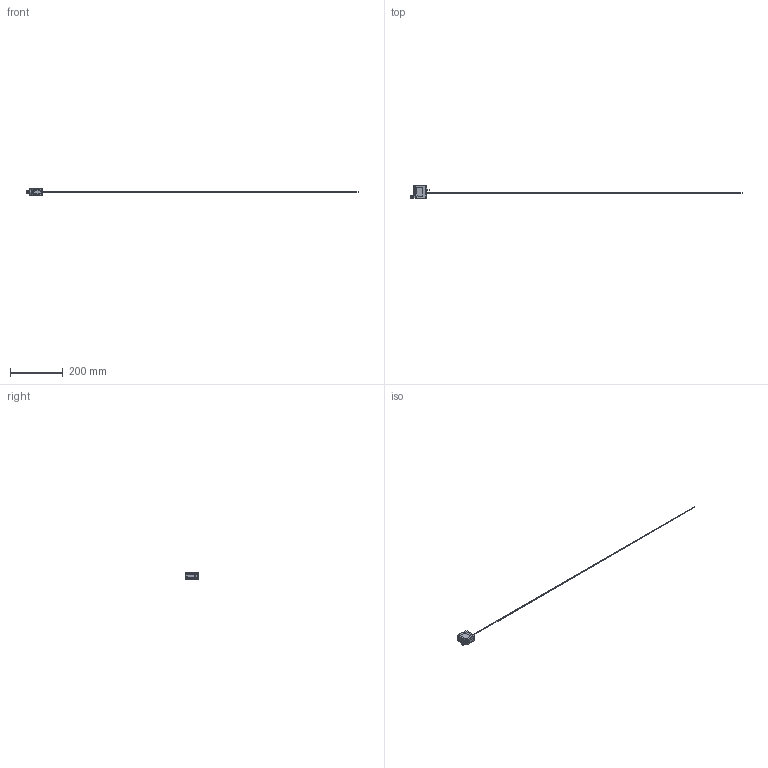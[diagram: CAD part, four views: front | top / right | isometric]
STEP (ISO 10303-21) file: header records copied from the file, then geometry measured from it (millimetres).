
FILE_DESCRIPTION(/* description */ (''),/* implementation_level */ '2;1');
FILE_NAME(/* name */ 'C:\Temp\Publisher-Output\622-21007_FT 55-RL-NS-L4.stp',/* time_stamp */ '2023-01-26T00:01:07+01:00',/* author */ ('Sandra.Stahl'),/* organization */ (''),/* preprocessor_version */ 'ST-DEVELOPER v18.1',/* originating_system */ 'Autodesk Inventor 2022',/* authorisation */ '');
FILE_SCHEMA (('AUTOMOTIVE_DESIGN { 1 0 10303 214 3 1 1 }'));
Length unit declared in the file: millimetre
Products named in the file (1): GH-ENG-0039427_Vereinfachen_1
Bounding box: 1262.85 x 51 x 23 mm (x, y, z)
Volume: 60550.7 mm3; surface area: 22975.6 mm2
Topology: 4 solids, 4 shells, 180 faces, 433 edges, 274 vertices
Faces by surface type: plane 93, cylinder 48, cone 11, sphere 11, torus 9, bspline 8
Full cylindrical faces by diameter (mm): 1 x1, 3.57 x1, 4.3 x1, 5 x1, 5.2 x1, 5.58 x1, 10.3 x1, 10.6 x1, 10.8 x1, 12 x1, 13 x1, 16 x1
Entity records: 5960 total; most frequent: CARTESIAN_POINT 1519, DIRECTION 879, ORIENTED_EDGE 854, EDGE_CURVE 427, AXIS2_PLACEMENT_3D 317, VERTEX_POINT 273, LINE 245, VECTOR 245
